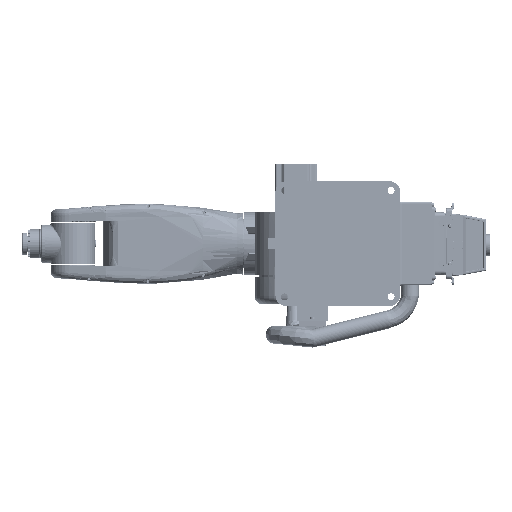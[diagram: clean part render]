
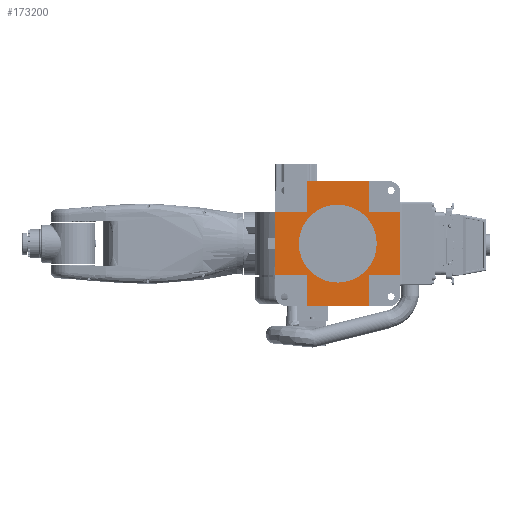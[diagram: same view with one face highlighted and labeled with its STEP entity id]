
A CAD part, front view. The second image highlights one B-rep face of the part: STEP entity #173200.
In plain terms, the highlighted planar face has unit normal (0, -1, 0).
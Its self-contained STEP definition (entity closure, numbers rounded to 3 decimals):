
#2906 = DIRECTION ( 'NONE',  ( 0., 0., 1. ) ) ;
#3785 = DIRECTION ( 'NONE',  ( -1., 0., 0. ) ) ;
#10670 = EDGE_CURVE ( 'NONE', #85480, #279613, #463628, .T. ) ;
#12714 = CARTESIAN_POINT ( 'NONE',  ( 49.23, 15.258, 21.828 ) ) ;
#23176 = DIRECTION ( 'NONE',  ( 0., 0., 1. ) ) ;
#24129 = VERTEX_POINT ( 'NONE', #517066 ) ;
#27754 = ORIENTED_EDGE ( 'NONE', *, *, #289425, .T. ) ;
#33543 = CARTESIAN_POINT ( 'NONE',  ( -10.77, 15.258, 201.828 ) ) ;
#35406 = VECTOR ( 'NONE', #369593, 1000. ) ;
#40842 = LINE ( 'NONE', #106157, #247485 ) ;
#41349 = LINE ( 'NONE', #358854, #144525 ) ;
#48448 = LINE ( 'NONE', #413030, #35406 ) ;
#48923 = CARTESIAN_POINT ( 'NONE',  ( 9.23, 15.258, 21.828 ) ) ;
#49508 = ORIENTED_EDGE ( 'NONE', *, *, #244366, .T. ) ;
#76694 = VERTEX_POINT ( 'NONE', #179060 ) ;
#77972 = CARTESIAN_POINT ( 'NONE',  ( 109.23, 15.258, 141.828 ) ) ;
#85480 = VERTEX_POINT ( 'NONE', #449685 ) ;
#90739 = ORIENTED_EDGE ( 'NONE', *, *, #342669, .F. ) ;
#99490 = DIRECTION ( 'NONE',  ( 0., 0., -1. ) ) ;
#102917 = ORIENTED_EDGE ( 'NONE', *, *, #10670, .F. ) ;
#106157 = CARTESIAN_POINT ( 'NONE',  ( 9.23, 15.258, 261.828 ) ) ;
#107043 = EDGE_CURVE ( 'NONE', #272978, #246355, #454472, .T. ) ;
#108278 = ORIENTED_EDGE ( 'NONE', *, *, #409677, .F. ) ;
#110220 = ORIENTED_EDGE ( 'NONE', *, *, #426374, .T. ) ;
#111569 = DIRECTION ( 'NONE',  ( -1., 0., 0. ) ) ;
#114590 = DIRECTION ( 'NONE',  ( 1., 0., 0. ) ) ;
#119975 = VERTEX_POINT ( 'NONE', #371185 ) ;
#123222 = CARTESIAN_POINT ( 'NONE',  ( 169.23, 15.258, -33.96 ) ) ;
#123400 = CARTESIAN_POINT ( 'NONE',  ( 109.23, 15.258, 141.828 ) ) ;
#132120 = ORIENTED_EDGE ( 'NONE', *, *, #247652, .T. ) ;
#135640 = EDGE_CURVE ( 'NONE', #279613, #85480, #301874, .T. ) ;
#139789 = CARTESIAN_POINT ( 'NONE',  ( 109.23, 15.258, 141.828 ) ) ;
#140554 = EDGE_CURVE ( 'NONE', #246355, #24129, #209451, .T. ) ;
#142027 = VERTEX_POINT ( 'NONE', #12714 ) ;
#144525 = VECTOR ( 'NONE', #111569, 1000. ) ;
#146500 = ORIENTED_EDGE ( 'NONE', *, *, #237356, .T. ) ;
#147514 = CARTESIAN_POINT ( 'NONE',  ( 229.23, 15.258, 241.828 ) ) ;
#151569 = ORIENTED_EDGE ( 'NONE', *, *, #212663, .F. ) ;
#160150 = CARTESIAN_POINT ( 'NONE',  ( 109.23, 15.258, 66.828 ) ) ;
#162379 = VECTOR ( 'NONE', #282590, 1000. ) ;
#164873 = DIRECTION ( 'NONE',  ( 0., -1., 0. ) ) ;
#173200 = ADVANCED_FACE ( 'NONE', ( #485242, #343248 ), #508280, .T. ) ;
#179060 = CARTESIAN_POINT ( 'NONE',  ( -10.77, 15.258, 81.828 ) ) ;
#187800 = VECTOR ( 'NONE', #3785, 1000. ) ;
#188088 = DIRECTION ( 'NONE',  ( 0., -1., 0. ) ) ;
#189029 = CARTESIAN_POINT ( 'NONE',  ( 169.23, 15.258, 261.828 ) ) ;
#189507 = AXIS2_PLACEMENT_3D ( 'NONE', #77972, #188088, #527567 ) ;
#194481 = LINE ( 'NONE', #48923, #187800 ) ;
#209451 = LINE ( 'NONE', #266430, #318727 ) ;
#212663 = EDGE_CURVE ( 'NONE', #288894, #524990, #40842, .T. ) ;
#220460 = CARTESIAN_POINT ( 'NONE',  ( 49.23, 15.258, 201.828 ) ) ;
#221086 = DIRECTION ( 'NONE',  ( 0., 0., -1. ) ) ;
#234920 = CARTESIAN_POINT ( 'NONE',  ( 49.23, 15.258, 261.828 ) ) ;
#237115 = AXIS2_PLACEMENT_3D ( 'NONE', #139789, #515406, #221086 ) ;
#237356 = EDGE_CURVE ( 'NONE', #119975, #142027, #48448, .T. ) ;
#242481 = EDGE_CURVE ( 'NONE', #76694, #273053, #345369, .T. ) ;
#244366 = EDGE_CURVE ( 'NONE', #357680, #395684, #248462, .T. ) ;
#246355 = VERTEX_POINT ( 'NONE', #339471 ) ;
#247485 = VECTOR ( 'NONE', #268495, 1000. ) ;
#247652 = EDGE_CURVE ( 'NONE', #330343, #273053, #41349, .T. ) ;
#248462 = LINE ( 'NONE', #323455, #494238 ) ;
#262068 = VECTOR ( 'NONE', #99490, 1000. ) ;
#263924 = EDGE_CURVE ( 'NONE', #76694, #119975, #435967, .T. ) ;
#266430 = CARTESIAN_POINT ( 'NONE',  ( 283.003, 15.258, 81.828 ) ) ;
#268495 = DIRECTION ( 'NONE',  ( 1., 0., 0. ) ) ;
#268661 = CARTESIAN_POINT ( 'NONE',  ( 169.23, 15.258, 201.828 ) ) ;
#272978 = VERTEX_POINT ( 'NONE', #320721 ) ;
#273053 = VERTEX_POINT ( 'NONE', #33543 ) ;
#279613 = VERTEX_POINT ( 'NONE', #160150 ) ;
#282590 = DIRECTION ( 'NONE',  ( 0., 0., -1. ) ) ;
#288894 = VERTEX_POINT ( 'NONE', #234920 ) ;
#289390 = DIRECTION ( 'NONE',  ( 0., 0., -1. ) ) ;
#289425 = EDGE_CURVE ( 'NONE', #395684, #524990, #349838, .T. ) ;
#291830 = CARTESIAN_POINT ( 'NONE',  ( -10.77, 15.258, 241.828 ) ) ;
#301874 = CIRCLE ( 'NONE', #189507, 75. ) ;
#318727 = VECTOR ( 'NONE', #477780, 1000. ) ;
#320721 = CARTESIAN_POINT ( 'NONE',  ( 169.23, 15.258, 21.828 ) ) ;
#322500 = EDGE_LOOP ( 'NONE', ( #490451, #102917 ) ) ;
#323455 = CARTESIAN_POINT ( 'NONE',  ( 283.003, 15.258, 201.828 ) ) ;
#330343 = VERTEX_POINT ( 'NONE', #525550 ) ;
#339471 = CARTESIAN_POINT ( 'NONE',  ( 169.23, 15.258, 81.828 ) ) ;
#342669 = EDGE_CURVE ( 'NONE', #272978, #142027, #194481, .T. ) ;
#343248 = FACE_OUTER_BOUND ( 'NONE', #441891, .T. ) ;
#345369 = LINE ( 'NONE', #291830, #442398 ) ;
#349838 = LINE ( 'NONE', #268661, #466476 ) ;
#350668 = ORIENTED_EDGE ( 'NONE', *, *, #263924, .T. ) ;
#356715 = CARTESIAN_POINT ( 'NONE',  ( 229.23, 15.258, 201.828 ) ) ;
#357680 = VERTEX_POINT ( 'NONE', #356715 ) ;
#358854 = CARTESIAN_POINT ( 'NONE',  ( 49.23, 15.258, 201.828 ) ) ;
#369593 = DIRECTION ( 'NONE',  ( 0., 0., -1. ) ) ;
#371185 = CARTESIAN_POINT ( 'NONE',  ( 49.23, 15.258, 81.828 ) ) ;
#377914 = VECTOR ( 'NONE', #114590, 1000. ) ;
#395684 = VERTEX_POINT ( 'NONE', #447474 ) ;
#396246 = ORIENTED_EDGE ( 'NONE', *, *, #107043, .T. ) ;
#404890 = ORIENTED_EDGE ( 'NONE', *, *, #140554, .T. ) ;
#409677 = EDGE_CURVE ( 'NONE', #357680, #24129, #466062, .T. ) ;
#413030 = CARTESIAN_POINT ( 'NONE',  ( 49.23, 15.258, -33.96 ) ) ;
#426374 = EDGE_CURVE ( 'NONE', #288894, #330343, #488644, .T. ) ;
#435967 = LINE ( 'NONE', #446875, #377914 ) ;
#441891 = EDGE_LOOP ( 'NONE', ( #110220, #132120, #491821, #350668, #146500, #90739, #396246, #404890, #108278, #49508, #27754, #151569 ) ) ;
#442398 = VECTOR ( 'NONE', #2906, 1000. ) ;
#442450 = AXIS2_PLACEMENT_3D ( 'NONE', #123400, #164873, #289390 ) ;
#446875 = CARTESIAN_POINT ( 'NONE',  ( 49.23, 15.258, 81.828 ) ) ;
#447474 = CARTESIAN_POINT ( 'NONE',  ( 169.23, 15.258, 201.828 ) ) ;
#449685 = CARTESIAN_POINT ( 'NONE',  ( 109.23, 15.258, 216.828 ) ) ;
#454472 = LINE ( 'NONE', #123222, #525433 ) ;
#463628 = CIRCLE ( 'NONE', #442450, 75. ) ;
#466062 = LINE ( 'NONE', #147514, #162379 ) ;
#466476 = VECTOR ( 'NONE', #23176, 1000. ) ;
#477780 = DIRECTION ( 'NONE',  ( 1., 0., 0. ) ) ;
#485242 = FACE_BOUND ( 'NONE', #322500, .T. ) ;
#488644 = LINE ( 'NONE', #220460, #262068 ) ;
#490451 = ORIENTED_EDGE ( 'NONE', *, *, #135640, .F. ) ;
#491821 = ORIENTED_EDGE ( 'NONE', *, *, #242481, .F. ) ;
#494238 = VECTOR ( 'NONE', #525772, 1000. ) ;
#498783 = DIRECTION ( 'NONE',  ( 0., 0., 1. ) ) ;
#508280 = PLANE ( 'NONE',  #237115 ) ;
#515406 = DIRECTION ( 'NONE',  ( 0., -1., 0. ) ) ;
#517066 = CARTESIAN_POINT ( 'NONE',  ( 229.23, 15.258, 81.828 ) ) ;
#524990 = VERTEX_POINT ( 'NONE', #189029 ) ;
#525433 = VECTOR ( 'NONE', #498783, 1000. ) ;
#525550 = CARTESIAN_POINT ( 'NONE',  ( 49.23, 15.258, 201.828 ) ) ;
#525772 = DIRECTION ( 'NONE',  ( -1., 0., 0. ) ) ;
#527567 = DIRECTION ( 'NONE',  ( 0., 0., -1. ) ) ;
